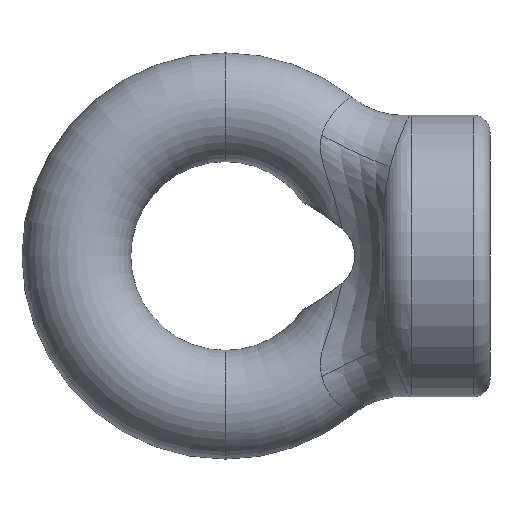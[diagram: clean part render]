
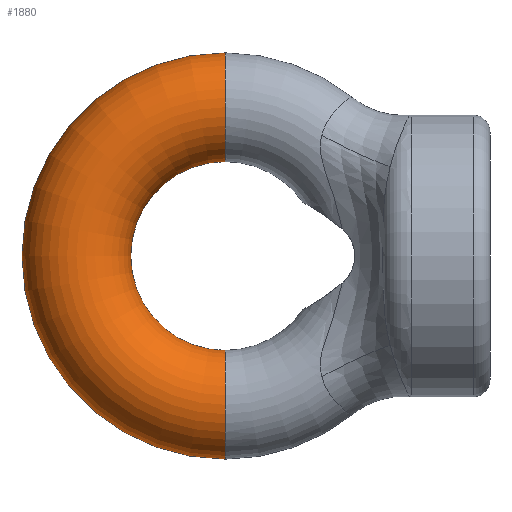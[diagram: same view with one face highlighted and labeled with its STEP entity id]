
A CAD part, front view. The second image highlights one B-rep face of the part: STEP entity #1880.
In plain terms, the highlighted toroidal (fillet/blend) face has major radius 26.4 mm and minor radius 9.65 mm.
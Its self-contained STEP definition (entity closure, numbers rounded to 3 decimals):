
#362 = VERTEX_POINT ( 'NONE', #3342 ) ;
#377 = VERTEX_POINT ( 'NONE', #3421 ) ;
#536 = VERTEX_POINT ( 'NONE', #3935 ) ;
#539 = EDGE_CURVE ( 'NONE', #536, #362, #3933, .T. ) ;
#1879 = EDGE_CURVE ( 'NONE', #18277, #536, #8674, .T. ) ;
#1880 = ADVANCED_FACE ( 'NONE', ( #8669 ), #8668, .T. ) ;
#1881 = EDGE_LOOP ( 'NONE', ( #1882, #1883, #1884, #1885 ) ) ;
#1882 = ORIENTED_EDGE ( 'NONE', *, *, #539, .F. ) ;
#1883 = ORIENTED_EDGE ( 'NONE', *, *, #1879, .F. ) ;
#1884 = ORIENTED_EDGE ( 'NONE', *, *, #18261, .T. ) ;
#1885 = ORIENTED_EDGE ( 'NONE', *, *, #1886, .T. ) ;
#1886 = EDGE_CURVE ( 'NONE', #377, #362, #8722, .T. ) ;
#3342 = CARTESIAN_POINT ( 'NONE',  ( 0., 0., 36.05 ) ) ;
#3421 = CARTESIAN_POINT ( 'NONE',  ( 0., 0., 16.75 ) ) ;
#3933 = CIRCLE ( 'NONE', #3977, 36.05 ) ;
#3935 = CARTESIAN_POINT ( 'NONE',  ( 0., 0., -36.05 ) ) ;
#3974 = DIRECTION ( 'NONE',  ( 0., 0., 1. ) ) ;
#3975 = DIRECTION ( 'NONE',  ( 0., 1., 0. ) ) ;
#3976 = CARTESIAN_POINT ( 'NONE',  ( 0., 0., 0. ) ) ;
#3977 = AXIS2_PLACEMENT_3D ( 'NONE', #3976, #3975, #3974 ) ;
#8664 = DIRECTION ( 'NONE',  ( 0., 0., 1. ) ) ;
#8665 = DIRECTION ( 'NONE',  ( 0., 1., 0. ) ) ;
#8666 = CARTESIAN_POINT ( 'NONE',  ( 0., 0., 0. ) ) ;
#8667 = AXIS2_PLACEMENT_3D ( 'NONE', #8666, #8665, #8664 ) ;
#8668 = TOROIDAL_SURFACE ( 'NONE', #8667, 26.4, 9.65 ) ;
#8669 = FACE_OUTER_BOUND ( 'NONE', #1881, .T. ) ;
#8670 = DIRECTION ( 'NONE',  ( 0., 0., -1. ) ) ;
#8671 = DIRECTION ( 'NONE',  ( 1., 0., 0. ) ) ;
#8672 = CARTESIAN_POINT ( 'NONE',  ( 0., 0., -26.4 ) ) ;
#8673 = AXIS2_PLACEMENT_3D ( 'NONE', #8672, #8671, #8670 ) ;
#8674 = CIRCLE ( 'NONE', #8673, 9.65 ) ;
#8718 = DIRECTION ( 'NONE',  ( 0., 0., 1. ) ) ;
#8719 = DIRECTION ( 'NONE',  ( -1., 0., 0. ) ) ;
#8720 = CARTESIAN_POINT ( 'NONE',  ( 0., 0., 26.4 ) ) ;
#8721 = AXIS2_PLACEMENT_3D ( 'NONE', #8720, #8719, #8718 ) ;
#8722 = CIRCLE ( 'NONE', #8721, 9.65 ) ;
#18261 = EDGE_CURVE ( 'NONE', #18277, #377, #22940, .T. ) ;
#18277 = VERTEX_POINT ( 'NONE', #22945 ) ;
#22931 = DIRECTION ( 'NONE',  ( 0., 0., 1. ) ) ;
#22932 = DIRECTION ( 'NONE',  ( 0., 1., 0. ) ) ;
#22933 = AXIS2_PLACEMENT_3D ( 'NONE', #22938, #22932, #22931 ) ;
#22938 = CARTESIAN_POINT ( 'NONE',  ( 0., 0., 0. ) ) ;
#22940 = CIRCLE ( 'NONE', #22933, 16.75 ) ;
#22945 = CARTESIAN_POINT ( 'NONE',  ( 0., 0., -16.75 ) ) ;
